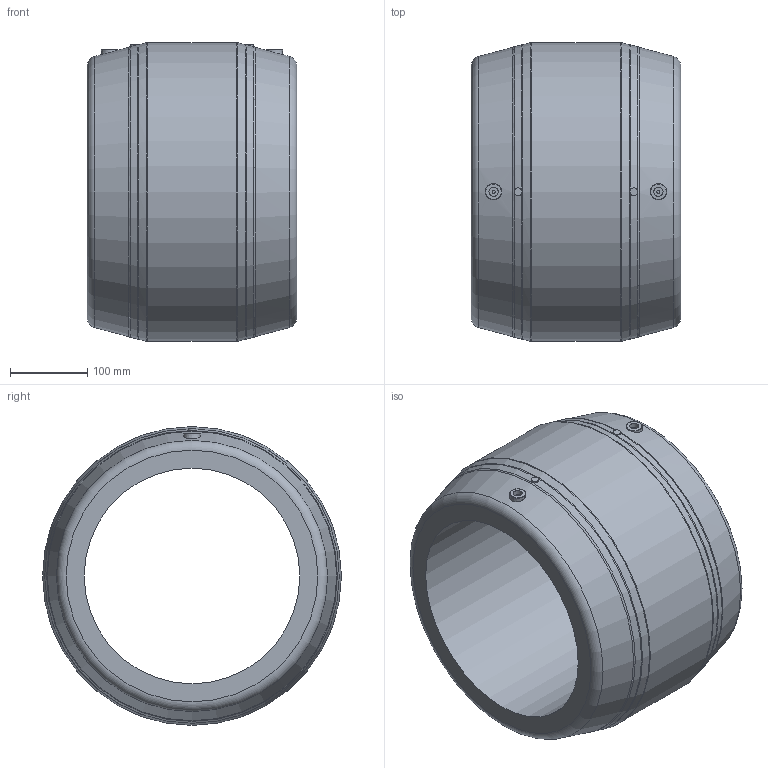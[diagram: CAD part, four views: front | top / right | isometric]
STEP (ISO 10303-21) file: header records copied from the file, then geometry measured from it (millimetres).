
FILE_DESCRIPTION(/* description */ ('Unknown'),/* implementation_level */ '2;1');
FILE_NAME(/* name */ 'MP280H',/* time_stamp */ '2021-05-27T11:29:07+02:00',/* author */ ('Unknown'),/* organization */ ('Unknown'),/* preprocessor_version */ 'ST-DEVELOPER v16.7',/* originating_system */ 'Solid Edge',/* authorisation */ 'Unknown');
FILE_SCHEMA (('AUTOMOTIVE_DESIGN {1 0 10303 214 3 1 1}'));
Length unit declared in the file: millimetre
Products named in the file (1): MP280H
Bounding box: 272 x 388 x 388 mm (x, y, z)
Volume: 13494736.2 mm3; surface area: 628520.6 mm2
Topology: 1 solids, 1 shells, 36 faces, 81 edges, 51 vertices
Faces by surface type: torus 10, plane 10, cone 8, cylinder 8
Full cylindrical faces by diameter (mm): 4 x2, 10 x2, 12 x2, 280 x1, 388 x1
Entity records: 846 total; most frequent: CARTESIAN_POINT 191, DIRECTION 138, ORIENTED_EDGE 84, AXIS2_PLACEMENT_3D 69, EDGE_LOOP 68, FACE_BOUND 68, EDGE_CURVE 42, VERTEX_POINT 38
